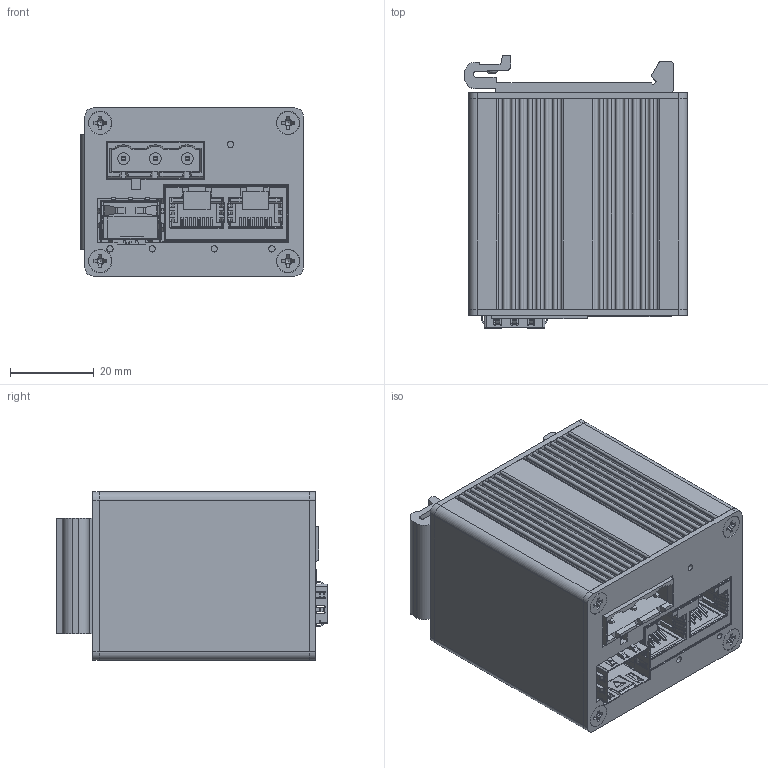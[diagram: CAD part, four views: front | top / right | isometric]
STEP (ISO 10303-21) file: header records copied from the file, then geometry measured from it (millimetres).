
FILE_DESCRIPTION(/* description */ ('STEP AP242 Edition 2','CAx-IF Rec.Pracs.---Representation and Presentation of Product Manufacturing Information (PMI)---4.0---2014-10-13','CAx-IF Rec.Pracs.---3D Tessellated Geometry---0.4---2014-09-14','2;1','CAx-IF Rec.Pracs.---User Defined Attributes---1.5---2016-08-15'),/* implementation_level */ '2;1');
FILE_NAME(/* name */ '69658021fa0a9f28c8790029',/* time_stamp */ '2026-01-12T23:13:39Z',/* author */ (''),/* organization */ (''),/* preprocessor_version */ 'ST-DEVELOPER v20',/* originating_system */ 'ONSHAPE BY PTC INC, 1.209',/* authorisation */ ' ');
FILE_SCHEMA (('AP242_MANAGED_MODEL_BASED_3D_ENGINEERING_MIM_LF { 1 0 10303 442 3 1 4 }'));
Products named in the file (16): SD-092 - Rev A - 2+1 Nano 10/100/1G Industrial Ethernet Media Convert
er with SFP; PZ Countersunk flat head screw M3x0.50 x 5; M-RJE3A-2ER-0001-REVT6; Housing; 94674A601_Flush-Mount Press-Fit Nut for Sheet Metal; DIN Clip; Terminal Block <1>; 2023_04_26_10_23_50_0144; 2023_04_26_10_23_50_0097; 2023_04_26_10_23_50_0159; 2023_04_26_10_23_50_0128; Front Cover; SFP Cage <1>; U77A1118200T; Rear Cover
Assembly tree (25 placements, depth 3):
  SD-092 - Rev A - 2+1 Nano 10/100/1G Industrial Ethernet Media Convert
er with SFP
    PZ Countersunk flat head screw M3x0.50 x 5  x10
    M-RJE3A-2ER-0001-REVT6
    Housing
    94674A601_Flush-Mount Press-Fit Nut for Sheet Metal  x2
    DIN Clip
    Terminal Block <1>
      2023_04_26_10_23_50_0144
      2023_04_26_10_23_50_0097
      2023_04_26_10_23_50_0159
      2023_04_26_10_23_50_0128
    Front Cover
    SFP Cage <1>
      U77A1118200T
      U77A1118200T
    Rear Cover
Bounding box: 53.2 x 65 x 40.2 mm (x, y, z)
Volume: 35817.7 mm3; surface area: 48882.8 mm2
Topology: 23 solids, 23 shells, 3215 faces, 8768 edges, 5652 vertices
Faces by surface type: plane 1952, cylinder 1031, cone 143, bspline 74, torus 12, sphere 3
Full cylindrical faces by diameter (mm): 0.7 x4, 1 x2, 1.5 x6, 2 x16, 2.5 x6, 2.8 x3, 3 x10, 3.3 x8, 3.35 x2, 3.4 x2, 4.35 x2, 4.4 x2, 5.5 x10
Entity records: 101730 total; most frequent: CARTESIAN_POINT 26762, ORIENTED_EDGE 15772, DIRECTION 15257, EDGE_CURVE 7886, LINE 5635, VECTOR 5635, VERTEX_POINT 5171, AXIS2_PLACEMENT_3D 4811
